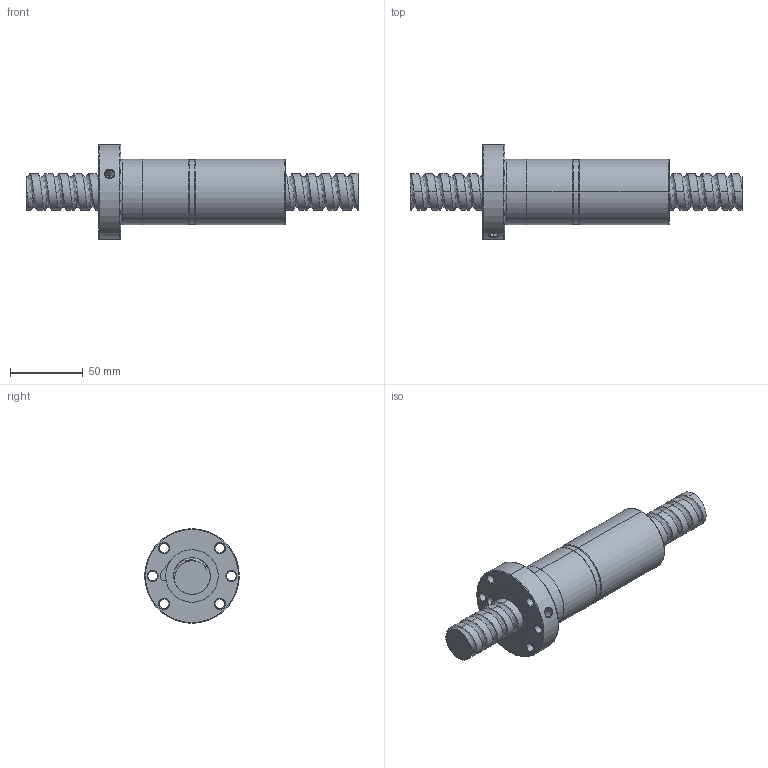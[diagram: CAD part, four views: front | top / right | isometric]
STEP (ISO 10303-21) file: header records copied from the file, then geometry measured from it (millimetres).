
FILE_DESCRIPTION (( 'STEP AP214' ), '1' );
FILE_NAME ('FDDC02510T4-D-A.STEP', '2010-07-07T01:13:33', ( 'XPAUTO' ), ( 'XPAUTO' ), 'SwSTEP 2.0', 'SolidWorks 2007', '' );
FILE_SCHEMA (( 'AUTOMOTIVE_DESIGN' ));
Length unit declared in the file: millimetre
Products named in the file (3): FDDC02510T4-D-A; FDDC02510T4-D-A.sldasm-Part-2_預設; FDDC02510T4-D-A.sldasm-Part-1_預設
Assembly tree (2 placements, depth 2):
  FDDC02510T4-D-A
    FDDC02510T4-D-A.sldasm-Part-2_預設
    FDDC02510T4-D-A.sldasm-Part-1_預設
Bounding box: 228 x 65 x 65 mm (x, y, z)
Volume: 261100.7 mm3; surface area: 57947.1 mm2
Topology: 2 solids, 2 shells, 144 faces, 362 edges, 227 vertices
Faces by surface type: cylinder 89, cone 24, plane 16, torus 10, bspline 5
Entity records: 27213 total; most frequent: CARTESIAN_POINT 23790, ORIENTED_EDGE 724, DIRECTION 662, EDGE_CURVE 362, AXIS2_PLACEMENT_3D 271, VERTEX_POINT 227, EDGE_LOOP 165, FACE_OUTER_BOUND 144
